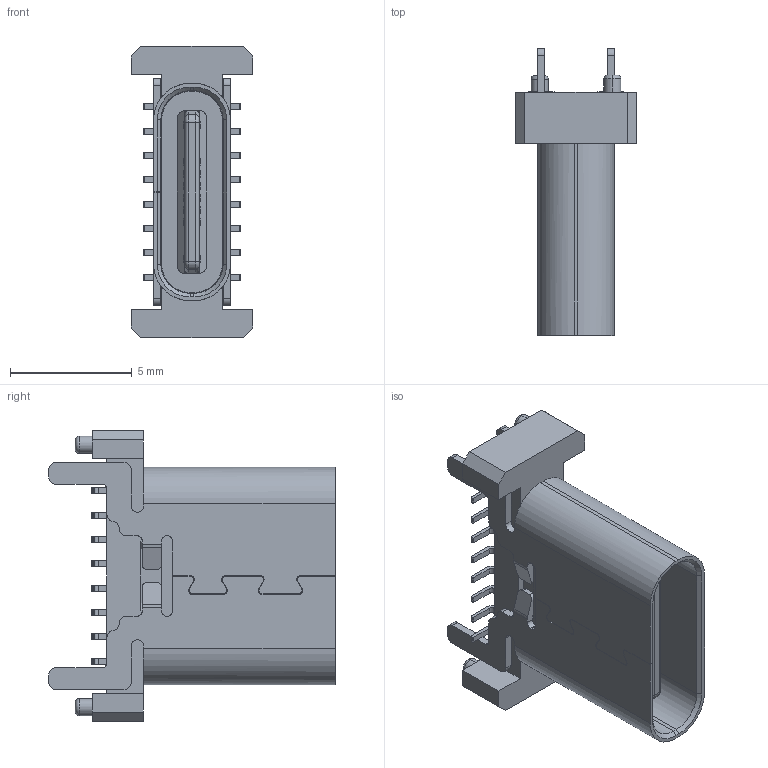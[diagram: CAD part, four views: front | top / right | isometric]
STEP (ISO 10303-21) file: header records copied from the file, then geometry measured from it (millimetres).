
FILE_DESCRIPTION (( 'STEP AP203' ), '1' );
FILE_NAME ('Æ·ÔÞ GT-USB-7082C.STEP', '2024-04-01T09:39:44', ( '' ), ( '' ), 'SwSTEP 2.0', 'SolidWorks 2023', '' );
FILE_SCHEMA (( 'CONFIG_CONTROL_DESIGN' ));
Length unit declared in the file: millimetre
Products named in the file (1): 品赞 GT-USB-7082C
Bounding box: 5 x 11.8 x 12 mm (x, y, z)
Volume: 183.8 mm3; surface area: 671.5 mm2
Topology: 1 solids, 1 shells, 774 faces, 2171 edges, 1430 vertices
Faces by surface type: plane 536, cylinder 148, bspline 78, torus 8, cone 4
Entity records: 28518 total; most frequent: CARTESIAN_POINT 8712, ORIENTED_EDGE 4342, DIRECTION 3725, EDGE_CURVE 2171, LINE 1699, VECTOR 1699, VERTEX_POINT 1430, AXIS2_PLACEMENT_3D 1013
